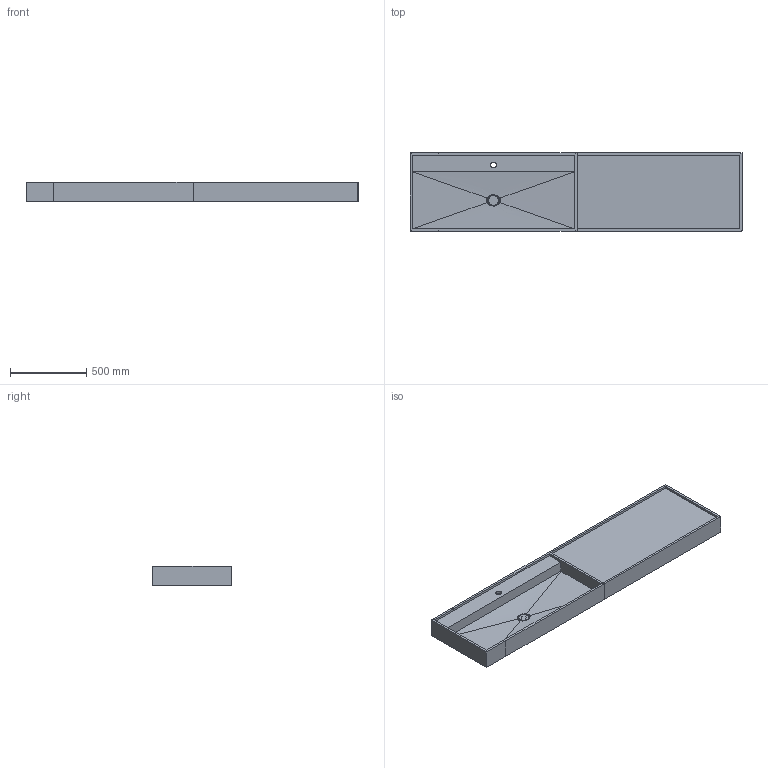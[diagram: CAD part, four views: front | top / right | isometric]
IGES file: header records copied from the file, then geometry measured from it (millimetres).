
Start section: Data from Parasolid IGES Translator 22.0.50, Copyright(c) 2006 Siemens P LM Software. All Rights Reserved.
Global section: file name: noorth-top-H 12,5 D 51,2 W 109,2_5361.igs; native system: By Siemens PLM Incorporated; preprocessor: XPlus GENERIC/IGES 22.0.50; author: Noname; organization: Noname; date: 20251109.152550; units: metre
Bounding box: 2174 x 513 x 127 mm (x, y, z)
Volume: 44036868.1 mm3; surface area: 5657347.8 mm2
Topology: 22 solids, 22 shells, 219 faces, 500 edges, 339 vertices
Faces by surface type: bspline 153, plane 56, cylinder 10
